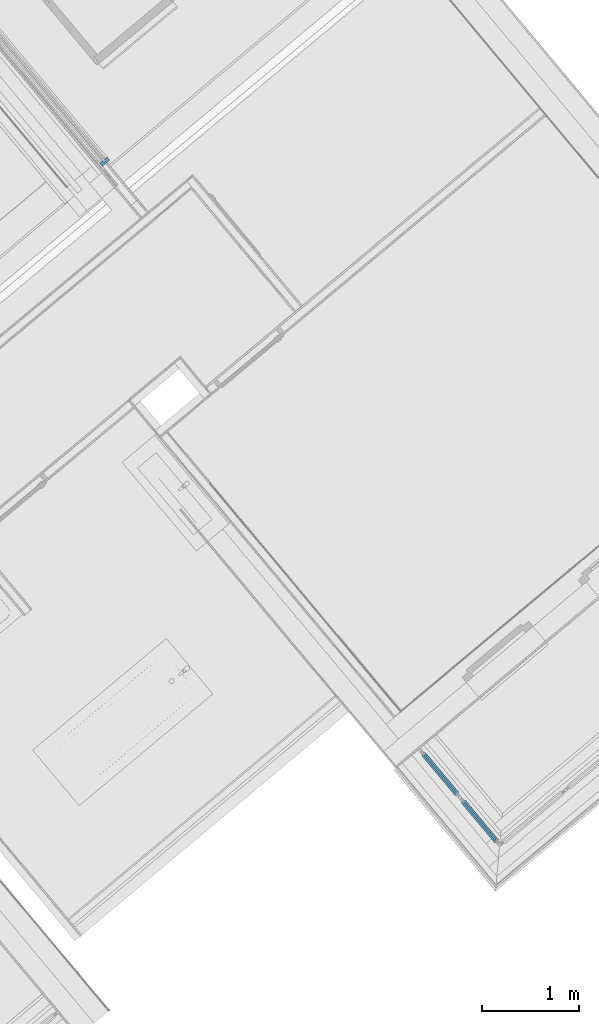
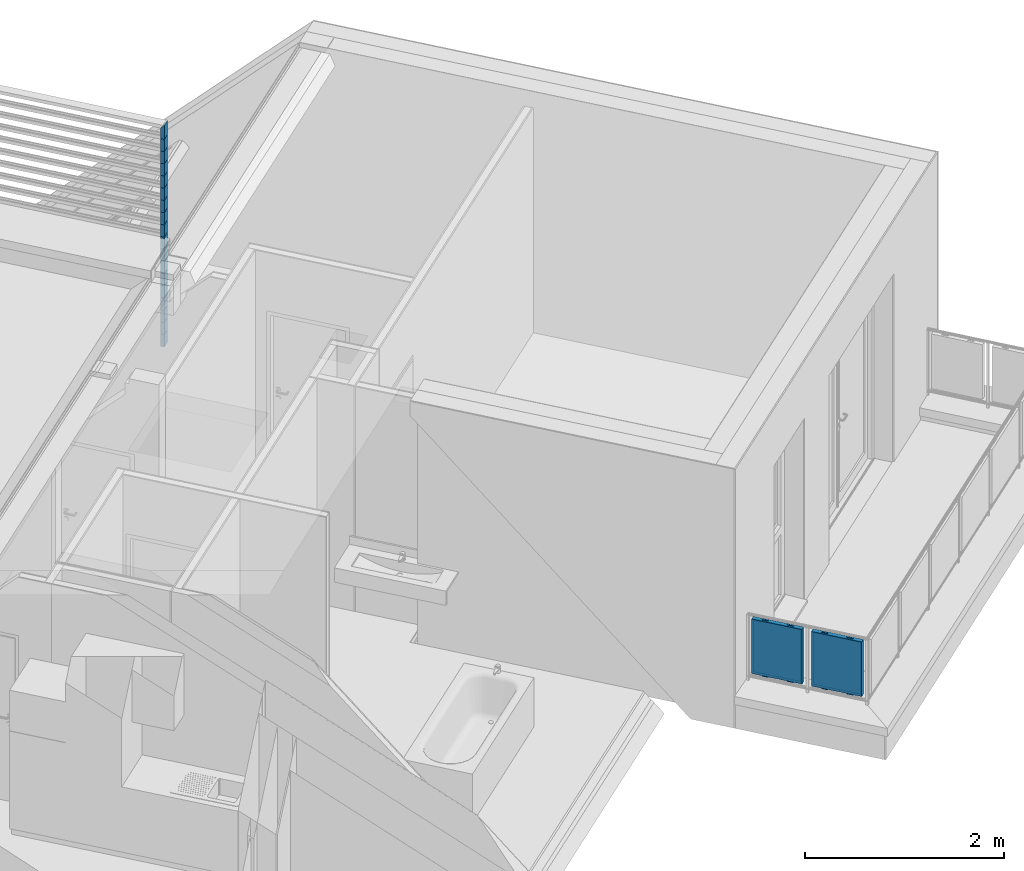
# One storey, part 44 of 50: 22 building element parts, 2 elements without a shape of their own.
"""IFC4 building model written with IfcOpenShell, lengths in metres."""

from ifc_helpers import new_model, entity, si_unit, converted_unit, derived_unit, direction, frame, origin_with_axes, place, context, subcontext, project, spatial, polygons, material, type_object, element, aggregate, save


model = new_model("IFC4")

# Units and contexts
model_context = context("Model", 3, precision=1e-05, world=origin_with_axes(), true_north=direction((0.0, 1.0)))
body_context = subcontext(model_context, "Body", "Model", "MODEL_VIEW")
ifc_project = project(units=[si_unit("LENGTHUNIT", "METRE"), si_unit("AREAUNIT", "SQUARE_METRE"), si_unit("VOLUMEUNIT", "CUBIC_METRE"), converted_unit("PLANEANGLEUNIT", "DEGREE", entity("IfcPlaneAngleMeasure", 0.0174532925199), si_unit("PLANEANGLEUNIT", "RADIAN"), dimensions=[0, 0, 0, 0, 0, 0, 0]), converted_unit("TIMEUNIT", "Year", entity("IfcTimeMeasure", 31556926.0), si_unit("TIMEUNIT", "SECOND"), dimensions=[0, 0, 1, 0, 0, 0, 0]), si_unit("MASSUNIT", "GRAM", prefix="KILO"), si_unit("THERMODYNAMICTEMPERATUREUNIT", "DEGREE_CELSIUS"), si_unit("LUMINOUSINTENSITYUNIT", "LUMEN"), si_unit("ENERGYUNIT", "JOULE", prefix="MEGA"), derived_unit("THERMALCONDUCTANCEUNIT", [(si_unit("POWERUNIT", "WATT"), 1), (si_unit("LENGTHUNIT", "METRE"), -1), (si_unit("THERMODYNAMICTEMPERATUREUNIT", "KELVIN"), -1)]), derived_unit("SPECIFICHEATCAPACITYUNIT", [(si_unit("ENERGYUNIT", "JOULE"), 1), (si_unit("MASSUNIT", "GRAM", prefix="KILO"), -1), (si_unit("THERMODYNAMICTEMPERATUREUNIT", "KELVIN"), -1)]), derived_unit("MASSDENSITYUNIT", [(si_unit("MASSUNIT", "GRAM", prefix="KILO"), 1), (si_unit("VOLUMEUNIT", "CUBIC_METRE"), -1)])], contexts=[model_context])

# Site, building, storey, space
site_placement = place(None, frame((-0.00153261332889, -0.00661245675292, 0.0), z_axis=(0.0, 0.0, 1.0), x_axis=(1.0, 0.0, 0.0)))
site = spatial("IfcSite", under=ifc_project, at=site_placement, Name="Gelände", CompositionType="ELEMENT")
building_placement = place(site_placement, origin_with_axes())
building = spatial("IfcBuilding", under=site, at=building_placement, Name="Gebäude", CompositionType="ELEMENT")
storey_placement = place(building_placement, frame((0.0, 0.0, 8.66), z_axis=(0.0, 0.0, 1.0), x_axis=(1.0, 0.0, 0.0)))
storey = spatial("IfcBuildingStorey", under=building, at=storey_placement, Name="DG2", CompositionType="ELEMENT", Elevation=8.66)
space_1_placement = place(storey_placement, frame((6.83696947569, 22.4856827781, 0.22), z_axis=(0.0, 0.0, 1.0), x_axis=(0.767365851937, 0.641209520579, 0.0)))
space_1 = spatial("IfcSpace", under=storey, at=space_1_placement, CompositionType="ELEMENT", PredefinedType="NOTDEFINED")

# Curtain wall, building element parts
curtain_wall_type = type_object("IfcCurtainWallType", Name="Fassadentyp", PredefinedType="NOTDEFINED")
curtain_wall_placement = place(space_1_placement, frame((-0.611260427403, 4.89750550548, 0.1), z_axis=(0.0, 0.0, 1.0), x_axis=(0.767365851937, -0.641209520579, 0.0)))
curtain_wall = element("IfcCurtainWall", 1, at=curtain_wall_placement, inside=space_1, type_object=curtain_wall_type, Name="Fassade-001", PredefinedType="NOTDEFINED")
ifc_material_1 = material(Name="Blech")
building_element_part_1_placement = place(curtain_wall_placement, origin_with_axes())
building_element_part_1 = element("IfcBuildingElementPart", 2, at=building_element_part_1_placement, material=ifc_material_1, Name="Blech", PredefinedType="NOTDEFINED", context=body_context, shape_type="Tessellation", body=[
    polygons([(1.55485923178, -1.88503623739, 1.8), (1.54203854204, -1.86968599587, 1.8), (1.51517561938, -1.8921222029, 1.8), (1.54081699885, -1.92282268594, 1.8), (1.61756820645, -1.85871923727, 1.8), (1.59192682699, -1.82801875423, 1.8), (1.56506390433, -1.85045496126, 1.8), (1.57788459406, -1.86580520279, 1.8), (1.55485923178, -1.88503623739, 1.65), (1.54203854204, -1.86968599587, 1.65), (1.51517561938, -1.8921222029, 1.65), (1.54081699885, -1.92282268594, 1.65), (1.61756820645, -1.85871923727, 1.65), (1.59192682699, -1.82801875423, 1.65), (1.56506390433, -1.85045496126, 1.65), (1.57788459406, -1.86580520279, 1.65)], [[[1, 2, 3, 4, 5, 6, 7, 8]], [[1, 9, 10, 2]], [[10, 11, 3, 2]], [[11, 12, 4, 3]], [[12, 13, 5, 4]], [[13, 14, 6, 5]], [[7, 6, 14, 15]], [[15, 16, 8, 7]], [[8, 16, 9, 1]], [[9, 16, 15, 14, 13, 12, 11, 10]]], closed=True),
])
building_element_part_2_placement = place(curtain_wall_placement, origin_with_axes())
building_element_part_2 = element("IfcBuildingElementPart", 3, at=building_element_part_2_placement, material=ifc_material_1, Name="Blech", PredefinedType="NOTDEFINED", context=body_context, shape_type="Tessellation", body=[
    polygons([(1.55485923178, -1.88503623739, 1.95), (1.54203854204, -1.86968599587, 1.95), (1.51517561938, -1.8921222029, 1.95), (1.54081699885, -1.92282268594, 1.95), (1.61756820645, -1.85871923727, 1.95), (1.59192682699, -1.82801875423, 1.95), (1.56506390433, -1.85045496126, 1.95), (1.57788459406, -1.86580520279, 1.95), (1.55485923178, -1.88503623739, 1.8), (1.54203854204, -1.86968599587, 1.8), (1.51517561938, -1.8921222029, 1.8), (1.54081699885, -1.92282268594, 1.8), (1.61756820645, -1.85871923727, 1.8), (1.59192682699, -1.82801875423, 1.8), (1.56506390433, -1.85045496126, 1.8), (1.57788459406, -1.86580520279, 1.8)], [[[1, 2, 3, 4, 5, 6, 7, 8]], [[1, 9, 10, 2]], [[10, 11, 3, 2]], [[11, 12, 4, 3]], [[12, 13, 5, 4]], [[13, 14, 6, 5]], [[7, 6, 14, 15]], [[15, 16, 8, 7]], [[8, 16, 9, 1]], [[9, 16, 15, 14, 13, 12, 11, 10]]], closed=True),
])
building_element_part_3_placement = place(curtain_wall_placement, origin_with_axes())
building_element_part_3 = element("IfcBuildingElementPart", 4, at=building_element_part_3_placement, material=ifc_material_1, Name="Blech", PredefinedType="NOTDEFINED", context=body_context, shape_type="Tessellation", body=[
    polygons([(1.55485923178, -1.88503623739, 2.1), (1.54203854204, -1.86968599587, 2.1), (1.51517561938, -1.8921222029, 2.1), (1.54081699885, -1.92282268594, 2.1), (1.61756820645, -1.85871923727, 2.1), (1.59192682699, -1.82801875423, 2.1), (1.56506390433, -1.85045496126, 2.1), (1.57788459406, -1.86580520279, 2.1), (1.55485923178, -1.88503623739, 1.95), (1.54203854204, -1.86968599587, 1.95), (1.51517561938, -1.8921222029, 1.95), (1.54081699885, -1.92282268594, 1.95), (1.61756820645, -1.85871923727, 1.95), (1.59192682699, -1.82801875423, 1.95), (1.56506390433, -1.85045496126, 1.95), (1.57788459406, -1.86580520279, 1.95)], [[[1, 2, 3, 4, 5, 6, 7, 8]], [[1, 9, 10, 2]], [[10, 11, 3, 2]], [[11, 12, 4, 3]], [[12, 13, 5, 4]], [[13, 14, 6, 5]], [[7, 6, 14, 15]], [[15, 16, 8, 7]], [[8, 16, 9, 1]], [[9, 16, 15, 14, 13, 12, 11, 10]]], closed=True),
])
building_element_part_4_placement = place(curtain_wall_placement, origin_with_axes())
building_element_part_4 = element("IfcBuildingElementPart", 5, at=building_element_part_4_placement, material=ifc_material_1, Name="Blech", PredefinedType="NOTDEFINED", context=body_context, shape_type="Tessellation", body=[
    polygons([(1.55485923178, -1.88503623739, 2.25), (1.54203854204, -1.86968599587, 2.25), (1.51517561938, -1.8921222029, 2.25), (1.54081699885, -1.92282268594, 2.25), (1.61756820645, -1.85871923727, 2.25), (1.59192682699, -1.82801875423, 2.25), (1.56506390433, -1.85045496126, 2.25), (1.57788459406, -1.86580520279, 2.25), (1.55485923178, -1.88503623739, 2.1), (1.54203854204, -1.86968599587, 2.1), (1.51517561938, -1.8921222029, 2.1), (1.54081699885, -1.92282268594, 2.1), (1.61756820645, -1.85871923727, 2.1), (1.59192682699, -1.82801875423, 2.1), (1.56506390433, -1.85045496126, 2.1), (1.57788459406, -1.86580520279, 2.1)], [[[1, 2, 3, 4, 5, 6, 7, 8]], [[1, 9, 10, 2]], [[10, 11, 3, 2]], [[11, 12, 4, 3]], [[12, 13, 5, 4]], [[13, 14, 6, 5]], [[7, 6, 14, 15]], [[15, 16, 8, 7]], [[8, 16, 9, 1]], [[9, 16, 15, 14, 13, 12, 11, 10]]], closed=True),
])
building_element_part_5_placement = place(curtain_wall_placement, origin_with_axes())
building_element_part_5 = element("IfcBuildingElementPart", 6, at=building_element_part_5_placement, material=ifc_material_1, Name="Blech", PredefinedType="NOTDEFINED", context=body_context, shape_type="Tessellation", body=[
    polygons([(1.55485923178, -1.88503623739, 2.4), (1.54203854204, -1.86968599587, 2.4), (1.51517561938, -1.8921222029, 2.4), (1.54081699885, -1.92282268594, 2.4), (1.61756820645, -1.85871923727, 2.4), (1.59192682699, -1.82801875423, 2.4), (1.56506390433, -1.85045496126, 2.4), (1.57788459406, -1.86580520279, 2.4), (1.55485923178, -1.88503623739, 2.25), (1.54203854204, -1.86968599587, 2.25), (1.51517561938, -1.8921222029, 2.25), (1.54081699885, -1.92282268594, 2.25), (1.61756820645, -1.85871923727, 2.25), (1.59192682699, -1.82801875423, 2.25), (1.56506390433, -1.85045496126, 2.25), (1.57788459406, -1.86580520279, 2.25)], [[[1, 2, 3, 4, 5, 6, 7, 8]], [[1, 9, 10, 2]], [[10, 11, 3, 2]], [[11, 12, 4, 3]], [[12, 13, 5, 4]], [[13, 14, 6, 5]], [[7, 6, 14, 15]], [[15, 16, 8, 7]], [[8, 16, 9, 1]], [[9, 16, 15, 14, 13, 12, 11, 10]]], closed=True),
])
building_element_part_6_placement = place(curtain_wall_placement, origin_with_axes())
building_element_part_6 = element("IfcBuildingElementPart", 7, at=building_element_part_6_placement, material=ifc_material_1, Name="Blech", PredefinedType="NOTDEFINED", context=body_context, shape_type="Tessellation", body=[
    polygons([(1.55485923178, -1.88503623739, 2.55), (1.54203854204, -1.86968599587, 2.55), (1.51517561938, -1.8921222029, 2.55), (1.54081699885, -1.92282268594, 2.55), (1.61756820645, -1.85871923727, 2.55), (1.59192682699, -1.82801875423, 2.55), (1.56506390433, -1.85045496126, 2.55), (1.57788459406, -1.86580520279, 2.55), (1.55485923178, -1.88503623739, 2.4), (1.54203854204, -1.86968599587, 2.4), (1.51517561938, -1.8921222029, 2.4), (1.54081699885, -1.92282268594, 2.4), (1.61756820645, -1.85871923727, 2.4), (1.59192682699, -1.82801875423, 2.4), (1.56506390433, -1.85045496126, 2.4), (1.57788459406, -1.86580520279, 2.4)], [[[1, 2, 3, 4, 5, 6, 7, 8]], [[1, 9, 10, 2]], [[10, 11, 3, 2]], [[11, 12, 4, 3]], [[12, 13, 5, 4]], [[13, 14, 6, 5]], [[7, 6, 14, 15]], [[15, 16, 8, 7]], [[8, 16, 9, 1]], [[9, 16, 15, 14, 13, 12, 11, 10]]], closed=True),
])
building_element_part_7_placement = place(curtain_wall_placement, origin_with_axes())
building_element_part_7 = element("IfcBuildingElementPart", 8, at=building_element_part_7_placement, material=ifc_material_1, Name="Blech", PredefinedType="NOTDEFINED", context=body_context, shape_type="Tessellation", body=[
    polygons([(1.55485923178, -1.88503623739, 2.7), (1.54203854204, -1.86968599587, 2.7), (1.51517561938, -1.8921222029, 2.7), (1.54081699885, -1.92282268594, 2.7), (1.61756820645, -1.85871923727, 2.7), (1.59192682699, -1.82801875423, 2.7), (1.56506390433, -1.85045496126, 2.7), (1.57788459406, -1.86580520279, 2.7), (1.55485923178, -1.88503623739, 2.55), (1.54203854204, -1.86968599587, 2.55), (1.51517561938, -1.8921222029, 2.55), (1.54081699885, -1.92282268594, 2.55), (1.61756820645, -1.85871923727, 2.55), (1.59192682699, -1.82801875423, 2.55), (1.56506390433, -1.85045496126, 2.55), (1.57788459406, -1.86580520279, 2.55)], [[[1, 2, 3, 4, 5, 6, 7, 8]], [[1, 9, 10, 2]], [[10, 11, 3, 2]], [[11, 12, 4, 3]], [[12, 13, 5, 4]], [[13, 14, 6, 5]], [[7, 6, 14, 15]], [[15, 16, 8, 7]], [[8, 16, 9, 1]], [[9, 16, 15, 14, 13, 12, 11, 10]]], closed=True),
])
building_element_part_8_placement = place(curtain_wall_placement, origin_with_axes())
building_element_part_8 = element("IfcBuildingElementPart", 9, at=building_element_part_8_placement, material=ifc_material_1, Name="Blech", PredefinedType="NOTDEFINED", context=body_context, shape_type="Tessellation", body=[
    polygons([(1.55485923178, -1.88503623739, 2.85), (1.54203854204, -1.86968599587, 2.85), (1.51517561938, -1.8921222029, 2.85), (1.54081699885, -1.92282268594, 2.85), (1.61756820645, -1.85871923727, 2.85), (1.59192682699, -1.82801875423, 2.85), (1.56506390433, -1.85045496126, 2.85), (1.57788459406, -1.86580520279, 2.85), (1.55485923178, -1.88503623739, 2.7), (1.54203854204, -1.86968599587, 2.7), (1.51517561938, -1.8921222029, 2.7), (1.54081699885, -1.92282268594, 2.7), (1.61756820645, -1.85871923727, 2.7), (1.59192682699, -1.82801875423, 2.7), (1.56506390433, -1.85045496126, 2.7), (1.57788459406, -1.86580520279, 2.7)], [[[1, 2, 3, 4, 5, 6, 7, 8]], [[1, 9, 10, 2]], [[10, 11, 3, 2]], [[11, 12, 4, 3]], [[12, 13, 5, 4]], [[13, 14, 6, 5]], [[7, 6, 14, 15]], [[15, 16, 8, 7]], [[8, 16, 9, 1]], [[9, 16, 15, 14, 13, 12, 11, 10]]], closed=True),
])
building_element_part_9_placement = place(curtain_wall_placement, origin_with_axes())
building_element_part_9 = element("IfcBuildingElementPart", 10, at=building_element_part_9_placement, material=ifc_material_1, Name="Blech", PredefinedType="NOTDEFINED", context=body_context, shape_type="Tessellation", body=[
    polygons([(1.55485923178, -1.88503623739, 3.0), (1.54203854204, -1.86968599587, 3.0), (1.51517561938, -1.8921222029, 3.0), (1.54081699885, -1.92282268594, 3.0), (1.61756820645, -1.85871923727, 3.0), (1.59192682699, -1.82801875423, 3.0), (1.56506390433, -1.85045496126, 3.0), (1.57788459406, -1.86580520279, 3.0), (1.55485923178, -1.88503623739, 2.85), (1.54203854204, -1.86968599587, 2.85), (1.51517561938, -1.8921222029, 2.85), (1.54081699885, -1.92282268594, 2.85), (1.61756820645, -1.85871923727, 2.85), (1.59192682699, -1.82801875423, 2.85), (1.56506390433, -1.85045496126, 2.85), (1.57788459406, -1.86580520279, 2.85)], [[[1, 2, 3, 4, 5, 6, 7, 8]], [[1, 9, 10, 2]], [[10, 11, 3, 2]], [[11, 12, 4, 3]], [[12, 13, 5, 4]], [[13, 14, 6, 5]], [[7, 6, 14, 15]], [[15, 16, 8, 7]], [[8, 16, 9, 1]], [[9, 16, 15, 14, 13, 12, 11, 10]]], closed=True),
])
building_element_part_10_placement = place(curtain_wall_placement, origin_with_axes())
building_element_part_10 = element("IfcBuildingElementPart", 11, at=building_element_part_10_placement, material=ifc_material_1, Name="Blech", PredefinedType="NOTDEFINED", context=body_context, shape_type="Tessellation", body=[
    polygons([(1.55485923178, -1.88503623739, 3.15), (1.54203854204, -1.86968599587, 3.15), (1.51517561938, -1.8921222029, 3.15), (1.54081699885, -1.92282268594, 3.15), (1.61756820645, -1.85871923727, 3.15), (1.59192682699, -1.82801875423, 3.15), (1.56506390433, -1.85045496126, 3.15), (1.57788459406, -1.86580520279, 3.15), (1.55485923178, -1.88503623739, 3.0), (1.54203854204, -1.86968599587, 3.0), (1.51517561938, -1.8921222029, 3.0), (1.54081699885, -1.92282268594, 3.0), (1.61756820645, -1.85871923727, 3.0), (1.59192682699, -1.82801875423, 3.0), (1.56506390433, -1.85045496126, 3.0), (1.57788459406, -1.86580520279, 3.0)], [[[1, 2, 3, 4, 5, 6, 7, 8]], [[1, 9, 10, 2]], [[10, 11, 3, 2]], [[11, 12, 4, 3]], [[12, 13, 5, 4]], [[13, 14, 6, 5]], [[7, 6, 14, 15]], [[15, 16, 8, 7]], [[8, 16, 9, 1]], [[9, 16, 15, 14, 13, 12, 11, 10]]], closed=True),
])
building_element_part_11_placement = place(curtain_wall_placement, origin_with_axes())
building_element_part_11 = element("IfcBuildingElementPart", 12, at=building_element_part_11_placement, material=ifc_material_1, Name="Blech", PredefinedType="NOTDEFINED", context=body_context, shape_type="Tessellation", body=[
    polygons([(1.55485923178, -1.88503623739, 3.3), (1.54203854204, -1.86968599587, 3.3), (1.51517561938, -1.8921222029, 3.3), (1.54081699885, -1.92282268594, 3.3), (1.61756820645, -1.85871923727, 3.3), (1.59192682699, -1.82801875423, 3.3), (1.56506390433, -1.85045496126, 3.3), (1.57788459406, -1.86580520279, 3.3), (1.55485923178, -1.88503623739, 3.15), (1.54203854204, -1.86968599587, 3.15), (1.51517561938, -1.8921222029, 3.15), (1.54081699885, -1.92282268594, 3.15), (1.61756820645, -1.85871923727, 3.15), (1.59192682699, -1.82801875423, 3.15), (1.56506390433, -1.85045496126, 3.15), (1.57788459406, -1.86580520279, 3.15)], [[[1, 2, 3, 4, 5, 6, 7, 8]], [[1, 9, 10, 2]], [[10, 11, 3, 2]], [[11, 12, 4, 3]], [[12, 13, 5, 4]], [[13, 14, 6, 5]], [[7, 6, 14, 15]], [[15, 16, 8, 7]], [[8, 16, 9, 1]], [[9, 16, 15, 14, 13, 12, 11, 10]]], closed=True),
])
building_element_part_12_placement = place(curtain_wall_placement, origin_with_axes())
building_element_part_12 = element("IfcBuildingElementPart", 13, at=building_element_part_12_placement, material=ifc_material_1, Name="Blech", PredefinedType="NOTDEFINED", context=body_context, shape_type="Tessellation", body=[
    polygons([(1.55485923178, -1.88503623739, 3.45), (1.54203854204, -1.86968599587, 3.45), (1.51517561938, -1.8921222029, 3.45), (1.54081699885, -1.92282268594, 3.45), (1.61756820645, -1.85871923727, 3.45), (1.59192682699, -1.82801875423, 3.45), (1.56506390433, -1.85045496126, 3.45), (1.57788459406, -1.86580520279, 3.45), (1.55485923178, -1.88503623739, 3.3), (1.54203854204, -1.86968599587, 3.3), (1.51517561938, -1.8921222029, 3.3), (1.54081699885, -1.92282268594, 3.3), (1.61756820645, -1.85871923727, 3.3), (1.59192682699, -1.82801875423, 3.3), (1.56506390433, -1.85045496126, 3.3), (1.57788459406, -1.86580520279, 3.3)], [[[1, 2, 3, 4, 5, 6, 7, 8]], [[1, 9, 10, 2]], [[10, 11, 3, 2]], [[11, 12, 4, 3]], [[12, 13, 5, 4]], [[13, 14, 6, 5]], [[7, 6, 14, 15]], [[15, 16, 8, 7]], [[8, 16, 9, 1]], [[9, 16, 15, 14, 13, 12, 11, 10]]], closed=True),
])
building_element_part_13_placement = place(curtain_wall_placement, origin_with_axes())
building_element_part_13 = element("IfcBuildingElementPart", 14, at=building_element_part_13_placement, material=ifc_material_1, Name="Blech", PredefinedType="NOTDEFINED", context=body_context, shape_type="Tessellation", body=[
    polygons([(1.55485923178, -1.88503623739, 3.6), (1.54203854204, -1.86968599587, 3.6), (1.51517561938, -1.8921222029, 3.6), (1.54081699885, -1.92282268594, 3.6), (1.61756820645, -1.85871923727, 3.6), (1.59192682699, -1.82801875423, 3.6), (1.56506390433, -1.85045496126, 3.6), (1.57788459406, -1.86580520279, 3.6), (1.55485923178, -1.88503623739, 3.45), (1.54203854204, -1.86968599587, 3.45), (1.51517561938, -1.8921222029, 3.45), (1.54081699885, -1.92282268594, 3.45), (1.61756820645, -1.85871923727, 3.45), (1.59192682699, -1.82801875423, 3.45), (1.56506390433, -1.85045496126, 3.45), (1.57788459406, -1.86580520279, 3.45)], [[[1, 2, 3, 4, 5, 6, 7, 8]], [[1, 9, 10, 2]], [[10, 11, 3, 2]], [[11, 12, 4, 3]], [[12, 13, 5, 4]], [[13, 14, 6, 5]], [[7, 6, 14, 15]], [[15, 16, 8, 7]], [[8, 16, 9, 1]], [[9, 16, 15, 14, 13, 12, 11, 10]]], closed=True),
])
building_element_part_14_placement = place(curtain_wall_placement, origin_with_axes())
building_element_part_14 = element("IfcBuildingElementPart", 15, at=building_element_part_14_placement, material=ifc_material_1, Name="Blech", PredefinedType="NOTDEFINED", context=body_context, shape_type="Tessellation", body=[
    polygons([(1.55485923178, -1.88503623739, 3.75), (1.54203854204, -1.86968599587, 3.75), (1.51517561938, -1.8921222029, 3.75), (1.54081699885, -1.92282268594, 3.75), (1.61756820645, -1.85871923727, 3.75), (1.59192682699, -1.82801875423, 3.75), (1.56506390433, -1.85045496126, 3.75), (1.57788459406, -1.86580520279, 3.75), (1.55485923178, -1.88503623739, 3.6), (1.54203854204, -1.86968599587, 3.6), (1.51517561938, -1.8921222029, 3.6), (1.54081699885, -1.92282268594, 3.6), (1.61756820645, -1.85871923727, 3.6), (1.59192682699, -1.82801875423, 3.6), (1.56506390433, -1.85045496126, 3.6), (1.57788459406, -1.86580520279, 3.6)], [[[1, 2, 3, 4, 5, 6, 7, 8]], [[1, 9, 10, 2]], [[10, 11, 3, 2]], [[11, 12, 4, 3]], [[12, 13, 5, 4]], [[13, 14, 6, 5]], [[7, 6, 14, 15]], [[15, 16, 8, 7]], [[8, 16, 9, 1]], [[9, 16, 15, 14, 13, 12, 11, 10]]], closed=True),
])
building_element_part_15_placement = place(curtain_wall_placement, origin_with_axes())
building_element_part_15 = element("IfcBuildingElementPart", 16, at=building_element_part_15_placement, material=ifc_material_1, Name="Blech", PredefinedType="NOTDEFINED", context=body_context, shape_type="Tessellation", body=[
    polygons([(1.55485923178, -1.88503623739, 3.9), (1.54203854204, -1.86968599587, 3.9), (1.51517561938, -1.8921222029, 3.9), (1.54081699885, -1.92282268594, 3.9), (1.61756820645, -1.85871923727, 3.9), (1.59192682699, -1.82801875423, 3.9), (1.56506390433, -1.85045496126, 3.9), (1.57788459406, -1.86580520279, 3.9), (1.55485923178, -1.88503623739, 3.75), (1.54203854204, -1.86968599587, 3.75), (1.51517561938, -1.8921222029, 3.75), (1.54081699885, -1.92282268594, 3.75), (1.61756820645, -1.85871923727, 3.75), (1.59192682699, -1.82801875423, 3.75), (1.56506390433, -1.85045496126, 3.75), (1.57788459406, -1.86580520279, 3.75)], [[[1, 2, 3, 4, 5, 6, 7, 8]], [[1, 9, 10, 2]], [[10, 11, 3, 2]], [[11, 12, 4, 3]], [[12, 13, 5, 4]], [[13, 14, 6, 5]], [[7, 6, 14, 15]], [[15, 16, 8, 7]], [[8, 16, 9, 1]], [[9, 16, 15, 14, 13, 12, 11, 10]]], closed=True),
])
building_element_part_16_placement = place(curtain_wall_placement, origin_with_axes())
building_element_part_16 = element("IfcBuildingElementPart", 17, at=building_element_part_16_placement, material=ifc_material_1, Name="Blech", PredefinedType="NOTDEFINED", context=body_context, shape_type="Tessellation", body=[
    polygons([(1.55485923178, -1.88503623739, 4.05), (1.54203854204, -1.86968599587, 4.05), (1.51517561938, -1.8921222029, 4.05), (1.54081699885, -1.92282268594, 4.05), (1.61756820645, -1.85871923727, 4.05), (1.59192682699, -1.82801875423, 4.05), (1.56506390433, -1.85045496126, 4.05), (1.57788459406, -1.86580520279, 4.05), (1.55485923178, -1.88503623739, 3.9), (1.54203854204, -1.86968599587, 3.9), (1.51517561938, -1.8921222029, 3.9), (1.54081699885, -1.92282268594, 3.9), (1.61756820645, -1.85871923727, 3.9), (1.59192682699, -1.82801875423, 3.9), (1.56506390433, -1.85045496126, 3.9), (1.57788459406, -1.86580520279, 3.9)], [[[1, 2, 3, 4, 5, 6, 7, 8]], [[1, 9, 10, 2]], [[10, 11, 3, 2]], [[11, 12, 4, 3]], [[12, 13, 5, 4]], [[13, 14, 6, 5]], [[7, 6, 14, 15]], [[15, 16, 8, 7]], [[8, 16, 9, 1]], [[9, 16, 15, 14, 13, 12, 11, 10]]], closed=True),
])
building_element_part_17_placement = place(curtain_wall_placement, origin_with_axes())
building_element_part_17 = element("IfcBuildingElementPart", 18, at=building_element_part_17_placement, material=ifc_material_1, Name="Blech", PredefinedType="NOTDEFINED", context=body_context, shape_type="Tessellation", body=[
    polygons([(1.55485923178, -1.88503623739, 4.2), (1.54203854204, -1.86968599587, 4.2), (1.51517561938, -1.8921222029, 4.2), (1.54081699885, -1.92282268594, 4.2), (1.61756820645, -1.85871923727, 4.2), (1.59192682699, -1.82801875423, 4.2), (1.56506390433, -1.85045496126, 4.2), (1.57788459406, -1.86580520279, 4.2), (1.55485923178, -1.88503623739, 4.05), (1.54203854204, -1.86968599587, 4.05), (1.51517561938, -1.8921222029, 4.05), (1.54081699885, -1.92282268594, 4.05), (1.61756820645, -1.85871923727, 4.05), (1.59192682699, -1.82801875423, 4.05), (1.56506390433, -1.85045496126, 4.05), (1.57788459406, -1.86580520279, 4.05)], [[[1, 2, 3, 4, 5, 6, 7, 8]], [[1, 9, 10, 2]], [[10, 11, 3, 2]], [[11, 12, 4, 3]], [[12, 13, 5, 4]], [[13, 14, 6, 5]], [[7, 6, 14, 15]], [[15, 16, 8, 7]], [[8, 16, 9, 1]], [[9, 16, 15, 14, 13, 12, 11, 10]]], closed=True),
])
building_element_part_18_placement = place(curtain_wall_placement, origin_with_axes())
building_element_part_18 = element("IfcBuildingElementPart", 19, at=building_element_part_18_placement, material=ifc_material_1, Name="Blech", PredefinedType="NOTDEFINED", context=body_context, shape_type="Tessellation", body=[
    polygons([(1.55485923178, -1.88503623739, 4.35), (1.54203854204, -1.86968599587, 4.33), (1.51517561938, -1.8921222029, 4.33), (1.54081699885, -1.92282268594, 4.37), (1.61756820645, -1.85871923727, 4.37), (1.59192682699, -1.82801875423, 4.33), (1.56506390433, -1.85045496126, 4.33), (1.57788459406, -1.86580520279, 4.35), (1.55485923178, -1.88503623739, 4.2), (1.54203854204, -1.86968599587, 4.2), (1.51517561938, -1.8921222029, 4.2), (1.54081699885, -1.92282268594, 4.2), (1.61756820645, -1.85871923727, 4.2), (1.59192682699, -1.82801875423, 4.2), (1.56506390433, -1.85045496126, 4.2), (1.57788459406, -1.86580520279, 4.2)], [[[1, 2, 3, 4, 5, 6, 7, 8]], [[1, 9, 10, 2]], [[10, 11, 3, 2]], [[11, 12, 4, 3]], [[12, 13, 5, 4]], [[13, 14, 6, 5]], [[7, 6, 14, 15]], [[15, 16, 8, 7]], [[8, 16, 9, 1]], [[9, 16, 15, 14, 13, 12, 11, 10]]], closed=True),
])
aggregate(curtain_wall, [building_element_part_1, building_element_part_2, building_element_part_3, building_element_part_4, building_element_part_5, building_element_part_6, building_element_part_7, building_element_part_8, building_element_part_9, building_element_part_10, building_element_part_11, building_element_part_12, building_element_part_13, building_element_part_14, building_element_part_15, building_element_part_16, building_element_part_17, building_element_part_18])

# Space
space_2_placement = place(storey_placement, frame((8.90864671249, 17.2360299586, 0.22), z_axis=(0.0, 0.0, 1.0), x_axis=(0.766948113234, 0.641709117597, 0.0)))
space_2 = spatial("IfcSpace", under=storey, at=space_2_placement, CompositionType="ELEMENT", PredefinedType="NOTDEFINED")

# Railing, building element parts
railing_type = type_object("IfcRailingType", Name="Geländerart", PredefinedType="NOTDEFINED")
railing_placement = place(space_2_placement, frame((-0.182063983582, 1.04564583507, 0.16), z_axis=(0.0, 0.0, 1.0), x_axis=(0.766948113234, -0.641709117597, 0.0)))
railing = element("IfcRailing", 20, at=railing_placement, inside=space_2, type_object=railing_type, Name="Geländer - 001", PredefinedType="NOTDEFINED")
ifc_material_2 = material(Name="Profilit")
building_element_part_19_placement = place(railing_placement, origin_with_axes())
building_element_part_19 = element("IfcBuildingElementPart", 21, at=building_element_part_19_placement, material=ifc_material_2, Name="Profilit", PredefinedType="NOTDEFINED", context=body_context, shape_type="Tessellation", body=[
    polygons([(0.337813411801, -0.466076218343, 0.135), (0.0110331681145, -0.0755199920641, 0.135), (0.0110331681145, -0.0755199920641, 0.775), (0.337813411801, -0.466076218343, 0.775), (-0.00430579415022, -0.088354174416, 0.135), (0.322474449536, -0.478910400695, 0.135), (-0.00430579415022, -0.088354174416, 0.775), (0.322474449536, -0.478910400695, 0.775)], [[[1, 2, 3, 4]], [[5, 2, 1, 6]], [[7, 3, 2, 5]], [[4, 3, 7, 8]], [[1, 4, 8, 6]], [[7, 5, 6, 8]]], closed=True),
])
ifc_material_3 = material(Name="Aluminium")
building_element_part_20_placement = place(railing_placement, origin_with_axes())
building_element_part_20 = element("IfcBuildingElementPart", 22, at=building_element_part_20_placement, material=ifc_material_3, Name="Aluminium", PredefinedType="NOTDEFINED", context=body_context, shape_type="Tessellation", body=[
    polygons([(0.0598263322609, -0.145523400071, 0.12), (0.104745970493, -0.199209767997, 0.12), (0.104745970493, -0.199209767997, 0.095), (0.0598263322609, -0.145523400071, 0.095), (0.0559915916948, -0.148731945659, 0.12), (0.100911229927, -0.202418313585, 0.12), (0.100911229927, -0.202418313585, 0.095), (0.0559915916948, -0.148731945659, 0.095)], [[[1, 2, 3, 4]], [[5, 6, 2, 1]], [[2, 6, 7, 3]], [[4, 3, 7, 8]], [[1, 4, 8, 5]], [[8, 7, 6, 5]]], closed=True),
    polygons([(0.232596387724, -0.352012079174, 0.12), (0.277516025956, -0.4056984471, 0.12), (0.277516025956, -0.4056984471, 0.095), (0.232596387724, -0.352012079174, 0.095), (0.228761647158, -0.355220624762, 0.12), (0.27368128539, -0.408906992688, 0.12), (0.27368128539, -0.408906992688, 0.095), (0.228761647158, -0.355220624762, 0.095)], [[[1, 2, 3, 4]], [[5, 6, 2, 1]], [[2, 6, 7, 3]], [[4, 3, 7, 8]], [[1, 4, 8, 5]], [[8, 7, 6, 5]]], closed=True),
    polygons([(0.277516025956, -0.4056984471, 0.79), (0.232596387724, -0.352012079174, 0.79), (0.232596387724, -0.352012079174, 0.795), (0.277516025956, -0.4056984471, 0.795), (0.27368128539, -0.408906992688, 0.79), (0.228761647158, -0.355220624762, 0.79), (0.228761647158, -0.355220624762, 0.795), (0.27368128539, -0.408906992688, 0.795)], [[[1, 2, 3, 4]], [[5, 6, 2, 1]], [[2, 6, 7, 3]], [[4, 3, 7, 8]], [[1, 4, 8, 5]], [[8, 7, 6, 5]]], closed=True),
    polygons([(0.104745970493, -0.199209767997, 0.79), (0.0598263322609, -0.145523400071, 0.79), (0.0598263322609, -0.145523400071, 0.795), (0.104745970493, -0.199209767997, 0.795), (0.100911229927, -0.202418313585, 0.79), (0.0559915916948, -0.148731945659, 0.79), (0.0559915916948, -0.148731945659, 0.795), (0.100911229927, -0.202418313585, 0.795)], [[[1, 2, 3, 4]], [[5, 6, 2, 1]], [[2, 6, 7, 3]], [[4, 3, 7, 8]], [[1, 4, 8, 5]], [[8, 7, 6, 5]]], closed=True),
    polygons([(-0.0254356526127, -0.0864755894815, 0.12), (0.012911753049, -0.0543901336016, 0.12), (0.358943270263, -0.467954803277, 0.12), (0.320595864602, -0.500040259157, 0.12), (-0.0126014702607, -0.101814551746, 0.14), (-0.00109724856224, -0.0921889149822, 0.14), (-0.00430579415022, -0.088354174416, 0.135), (0.0110331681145, -0.0755199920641, 0.135), (0.0142417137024, -0.0793547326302, 0.14), (0.0257459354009, -0.0697290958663, 0.14), (0.346109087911, -0.452615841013, 0.14), (0.346109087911, -0.452615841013, 0.77), (0.0257459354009, -0.0697290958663, 0.77), (0.0257459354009, -0.0697290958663, 0.14), (0.012911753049, -0.0543901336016, 0.12), (0.012911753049, -0.0543901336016, 0.79), (0.358943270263, -0.467954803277, 0.79), (0.320595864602, -0.500040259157, 0.79), (-0.0254356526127, -0.0864755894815, 0.79), (-0.0254356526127, -0.0864755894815, 0.12), (-0.0126014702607, -0.101814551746, 0.14), (-0.0126014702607, -0.101814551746, 0.77), (0.30776168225, -0.484701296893, 0.77), (0.30776168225, -0.484701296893, 0.14), (0.319265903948, -0.475075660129, 0.14), (0.319265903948, -0.475075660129, 0.77), (-0.00109724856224, -0.0921889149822, 0.77), (-0.00109724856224, -0.0921889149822, 0.14), (-0.00430579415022, -0.088354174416, 0.135), (-0.00430579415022, -0.088354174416, 0.775), (0.322474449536, -0.478910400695, 0.775), (0.322474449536, -0.478910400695, 0.135), (0.337813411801, -0.466076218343, 0.135), (0.337813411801, -0.466076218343, 0.775), (0.0110331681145, -0.0755199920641, 0.775), (0.0110331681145, -0.0755199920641, 0.135), (0.0142417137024, -0.0793547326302, 0.14), (0.0142417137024, -0.0793547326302, 0.77), (0.334604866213, -0.462241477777, 0.77), (0.334604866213, -0.462241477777, 0.14)], [[[1, 2, 3, 4]], [[1, 5, 6, 7, 8, 9, 10, 2]], [[2, 10, 11, 12, 13, 14, 15, 16, 17, 3]], [[4, 3, 17, 18]], [[5, 1, 4, 18, 19, 20, 21, 22, 23, 24]], [[6, 5, 24, 25]], [[7, 6, 25, 26, 27, 28, 29, 30, 31, 32]], [[8, 7, 32, 33]], [[9, 8, 33, 34, 35, 36, 37, 38, 39, 40]], [[10, 9, 40, 11]], [[11, 40, 39, 12]], [[12, 39, 38, 13]], [[13, 38, 37, 14]], [[20, 15, 14, 37, 36, 29, 28, 21]], [[19, 16, 15, 20]], [[18, 17, 16, 19]], [[27, 22, 21, 28]], [[26, 23, 22, 27]], [[25, 24, 23, 26]], [[35, 30, 29, 36]], [[34, 31, 30, 35]], [[33, 32, 31, 34]]], closed=True),
])
building_element_part_21_placement = place(railing_placement, origin_with_axes())
building_element_part_21 = element("IfcBuildingElementPart", 23, at=building_element_part_21_placement, material=ifc_material_2, Name="Profilit", PredefinedType="NOTDEFINED", context=body_context, shape_type="Tessellation", body=[
    polygons([(0.748015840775, -0.956335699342, 0.135), (0.421235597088, -0.565779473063, 0.135), (0.421235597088, -0.565779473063, 0.775), (0.748015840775, -0.956335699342, 0.775), (0.405896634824, -0.578613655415, 0.135), (0.73267687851, -0.969169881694, 0.135), (0.405896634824, -0.578613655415, 0.775), (0.73267687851, -0.969169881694, 0.775)], [[[1, 2, 3, 4]], [[5, 2, 1, 6]], [[7, 3, 2, 5]], [[4, 3, 7, 8]], [[1, 4, 8, 6]], [[7, 5, 6, 8]]], closed=True),
])
building_element_part_22_placement = place(railing_placement, origin_with_axes())
building_element_part_22 = element("IfcBuildingElementPart", 24, at=building_element_part_22_placement, material=ifc_material_3, Name="Aluminium", PredefinedType="NOTDEFINED", context=body_context, shape_type="Tessellation", body=[
    polygons([(0.470028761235, -0.63578288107, 0.12), (0.514948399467, -0.689469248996, 0.12), (0.514948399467, -0.689469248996, 0.095), (0.470028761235, -0.63578288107, 0.095), (0.466194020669, -0.638991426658, 0.12), (0.511113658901, -0.692677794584, 0.12), (0.511113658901, -0.692677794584, 0.095), (0.466194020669, -0.638991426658, 0.095)], [[[1, 2, 3, 4]], [[5, 6, 2, 1]], [[2, 6, 7, 3]], [[4, 3, 7, 8]], [[1, 4, 8, 5]], [[8, 7, 6, 5]]], closed=True),
    polygons([(0.642798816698, -0.842271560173, 0.12), (0.68771845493, -0.895957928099, 0.12), (0.68771845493, -0.895957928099, 0.095), (0.642798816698, -0.842271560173, 0.095), (0.638964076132, -0.845480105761, 0.12), (0.683883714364, -0.899166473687, 0.12), (0.683883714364, -0.899166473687, 0.095), (0.638964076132, -0.845480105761, 0.095)], [[[1, 2, 3, 4]], [[5, 6, 2, 1]], [[2, 6, 7, 3]], [[4, 3, 7, 8]], [[1, 4, 8, 5]], [[8, 7, 6, 5]]], closed=True),
    polygons([(0.68771845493, -0.895957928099, 0.79), (0.642798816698, -0.842271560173, 0.79), (0.642798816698, -0.842271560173, 0.795), (0.68771845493, -0.895957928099, 0.795), (0.683883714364, -0.899166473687, 0.79), (0.638964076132, -0.845480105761, 0.79), (0.638964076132, -0.845480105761, 0.795), (0.683883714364, -0.899166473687, 0.795)], [[[1, 2, 3, 4]], [[5, 6, 2, 1]], [[2, 6, 7, 3]], [[4, 3, 7, 8]], [[1, 4, 8, 5]], [[8, 7, 6, 5]]], closed=True),
    polygons([(0.514948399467, -0.689469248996, 0.79), (0.470028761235, -0.63578288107, 0.79), (0.470028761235, -0.63578288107, 0.795), (0.514948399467, -0.689469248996, 0.795), (0.511113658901, -0.692677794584, 0.79), (0.466194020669, -0.638991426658, 0.79), (0.466194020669, -0.638991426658, 0.795), (0.511113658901, -0.692677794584, 0.795)], [[[1, 2, 3, 4]], [[5, 6, 2, 1]], [[2, 6, 7, 3]], [[4, 3, 7, 8]], [[1, 4, 8, 5]], [[8, 7, 6, 5]]], closed=True),
    polygons([(0.384766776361, -0.576735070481, 0.12), (0.423114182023, -0.544649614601, 0.12), (0.769145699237, -0.958214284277, 0.12), (0.730798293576, -0.990299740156, 0.12), (0.397600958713, -0.592074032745, 0.14), (0.409105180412, -0.582448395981, 0.14), (0.405896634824, -0.578613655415, 0.135), (0.421235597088, -0.565779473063, 0.135), (0.424444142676, -0.569614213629, 0.14), (0.435948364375, -0.559988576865, 0.14), (0.756311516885, -0.942875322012, 0.14), (0.756311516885, -0.942875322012, 0.77), (0.435948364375, -0.559988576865, 0.77), (0.435948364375, -0.559988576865, 0.14), (0.423114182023, -0.544649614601, 0.12), (0.423114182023, -0.544649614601, 0.79), (0.769145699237, -0.958214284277, 0.79), (0.730798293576, -0.990299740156, 0.79), (0.384766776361, -0.576735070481, 0.79), (0.384766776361, -0.576735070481, 0.12), (0.397600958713, -0.592074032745, 0.14), (0.397600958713, -0.592074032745, 0.77), (0.717964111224, -0.974960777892, 0.77), (0.717964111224, -0.974960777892, 0.14), (0.729468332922, -0.965335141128, 0.14), (0.729468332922, -0.965335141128, 0.77), (0.409105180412, -0.582448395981, 0.77), (0.409105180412, -0.582448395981, 0.14), (0.405896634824, -0.578613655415, 0.135), (0.405896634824, -0.578613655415, 0.775), (0.73267687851, -0.969169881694, 0.775), (0.73267687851, -0.969169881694, 0.135), (0.748015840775, -0.956335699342, 0.135), (0.748015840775, -0.956335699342, 0.775), (0.421235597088, -0.565779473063, 0.775), (0.421235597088, -0.565779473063, 0.135), (0.424444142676, -0.569614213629, 0.14), (0.424444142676, -0.569614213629, 0.77), (0.744807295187, -0.952500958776, 0.77), (0.744807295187, -0.952500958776, 0.14)], [[[1, 2, 3, 4]], [[1, 5, 6, 7, 8, 9, 10, 2]], [[2, 10, 11, 12, 13, 14, 15, 16, 17, 3]], [[4, 3, 17, 18]], [[5, 1, 4, 18, 19, 20, 21, 22, 23, 24]], [[6, 5, 24, 25]], [[7, 6, 25, 26, 27, 28, 29, 30, 31, 32]], [[8, 7, 32, 33]], [[9, 8, 33, 34, 35, 36, 37, 38, 39, 40]], [[10, 9, 40, 11]], [[11, 40, 39, 12]], [[12, 39, 38, 13]], [[13, 38, 37, 14]], [[20, 15, 14, 37, 36, 29, 28, 21]], [[19, 16, 15, 20]], [[18, 17, 16, 19]], [[27, 22, 21, 28]], [[26, 23, 22, 27]], [[25, 24, 23, 26]], [[35, 30, 29, 36]], [[34, 31, 30, 35]], [[33, 32, 31, 34]]], closed=True),
])
aggregate(railing, [building_element_part_19, building_element_part_20, building_element_part_21, building_element_part_22])

save(model, "model.ifc")
